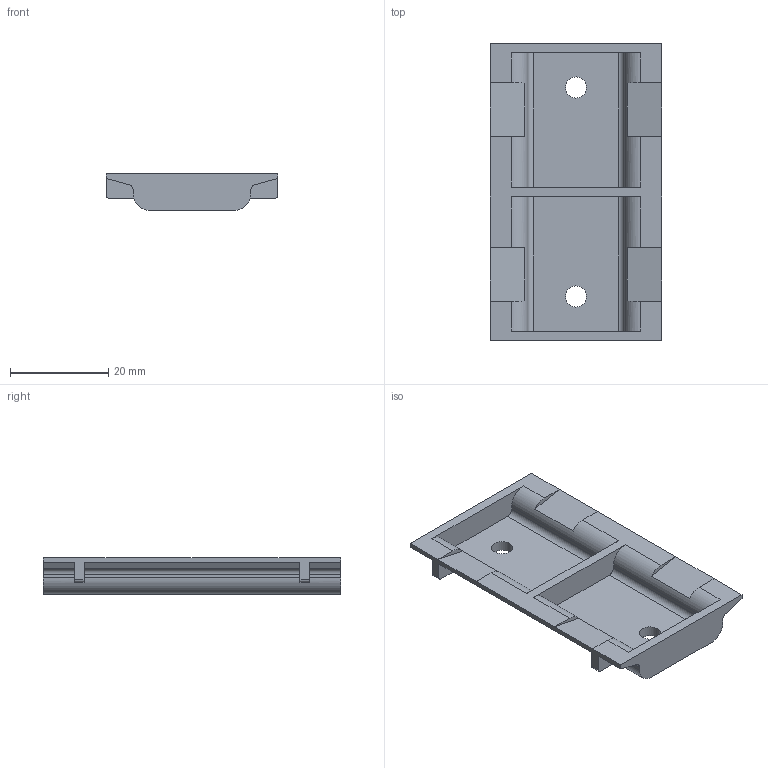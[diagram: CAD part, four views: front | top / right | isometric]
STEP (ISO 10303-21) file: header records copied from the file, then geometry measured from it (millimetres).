
FILE_DESCRIPTION( ( 'Unknown' ), '1' );
FILE_NAME( 'J:/DESBAKUP/3D DATA/MK-080PSC/ASSEMBLIES/3D OUTPUT & IMAGES/MK-080PSC.stp', 'Unknown', ( 'Unknown' ), ( 'Unknown' ), 'PSStep 14.0', 'Unknown', ' ' );
FILE_SCHEMA( ( 'AUTOMOTIVE_DESIGN { 1 0 10303 214 1 1 1 1 }' ) );
Length unit declared in the file: millimetre
Products named in the file (1): 1
Bounding box: 35 x 60.7 x 7.5 mm (x, y, z)
Volume: 5797.9 mm3; surface area: 6151.1 mm2
Topology: 1 solids, 1 shells, 76 faces, 214 edges, 140 vertices
Faces by surface type: plane 54, cylinder 22
Full cylindrical faces by diameter (mm): 4.3 x2
Entity records: 3076 total; most frequent: CARTESIAN_POINT 429, DIRECTION 426, ORIENTED_EDGE 424, EDGE_CURVE 212, LINE 152, VECTOR 152, VERTEX_POINT 140, AXIS2_PLACEMENT_3D 137
